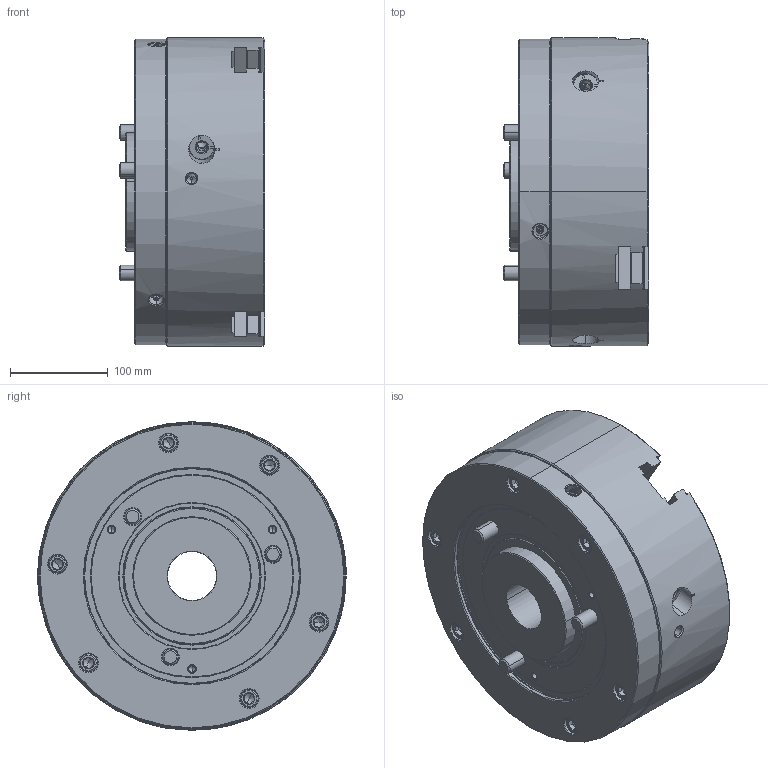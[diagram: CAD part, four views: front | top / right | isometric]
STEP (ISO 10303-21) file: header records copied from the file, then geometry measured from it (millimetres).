
FILE_DESCRIPTION (( 'STEP AP214' ), '1' );
FILE_NAME ('QJR12-00_OC.STEP', '2025-04-15T08:13:19', ( '' ), ( '' ), 'SwSTEP 2.0', 'SolidWorks 2022', '' );
FILE_SCHEMA (( 'AUTOMOTIVE_DESIGN' ));
Length unit declared in the file: millimetre
Products named in the file (3): Copy of 61P804753^QJR12-00_61P263143; Part1^QJR12-00_61P263143; QJR12-00_OC
Assembly tree (2 placements, depth 2):
  QJR12-00_OC
    Copy of 61P804753^QJR12-00_61P263143
    Part1^QJR12-00_61P263143
Bounding box: 149 x 315 x 315 mm (x, y, z)
Volume: 8620648.4 mm3; surface area: 542682.8 mm2
Topology: 2 solids, 24 shells, 1496 faces, 3786 edges, 2378 vertices
Faces by surface type: plane 667, cone 375, cylinder 289, bspline 119, torus 40, sphere 6
Entity records: 55288 total; most frequent: CARTESIAN_POINT 20140, ORIENTED_EDGE 7420, DIRECTION 6844, EDGE_CURVE 3710, AXIS2_PLACEMENT_3D 2464, VERTEX_POINT 2378, LINE 1916, VECTOR 1916
